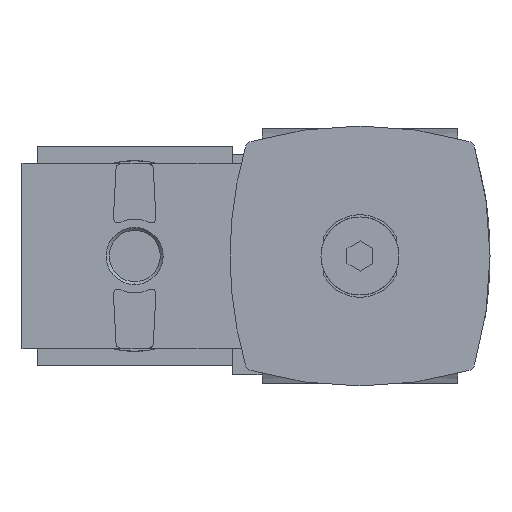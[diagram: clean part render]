
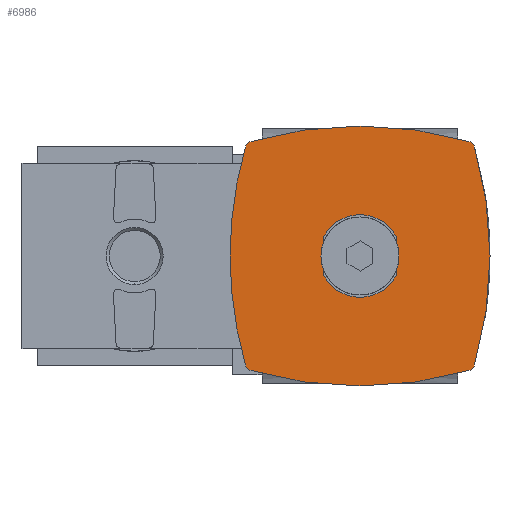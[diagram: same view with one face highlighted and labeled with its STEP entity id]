
A CAD part, front view. The second image highlights one B-rep face of the part: STEP entity #6986.
In plain terms, the highlighted planar face has unit normal (0, -1, 0) as drawn and (0, 0, 1) by its records, which use the part's own axes.
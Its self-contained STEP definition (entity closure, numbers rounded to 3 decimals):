
#6311=CARTESIAN_POINT('',(24.516,24.516,463.));
#6312=DIRECTION('',(0.,0.,1.));
#6313=DIRECTION('',(0.96,0.279,0.));
#6314=AXIS2_PLACEMENT_3D('',#6311,#6312,#6313);
#6316=CARTESIAN_POINT('',(24.516,-24.516,463.));
#6317=DIRECTION('',(0.,0.,1.));
#6318=DIRECTION('',(0.279,-0.96,0.));
#6319=AXIS2_PLACEMENT_3D('',#6316,#6317,#6318);
#6321=CARTESIAN_POINT('',(0.,60.,463.));
#6322=DIRECTION('',(0.,0.,1.));
#6323=DIRECTION('',(-0.279,-0.96,0.));
#6324=AXIS2_PLACEMENT_3D('',#6321,#6322,#6323);
#6326=CARTESIAN_POINT('',(-24.516,-24.516,463.));
#6327=DIRECTION('',(0.,0.,1.));
#6328=DIRECTION('',(-0.96,-0.279,0.));
#6329=AXIS2_PLACEMENT_3D('',#6326,#6327,#6328);
#6331=CARTESIAN_POINT('',(60.,0.,463.));
#6332=DIRECTION('',(0.,0.,1.));
#6333=DIRECTION('',(-1.,0.,0.));
#6334=AXIS2_PLACEMENT_3D('',#6331,#6332,#6333);
#6336=CARTESIAN_POINT('',(60.,0.,463.));
#6337=DIRECTION('',(0.,0.,1.));
#6338=DIRECTION('',(-0.96,0.279,0.));
#6339=AXIS2_PLACEMENT_3D('',#6336,#6337,#6338);
#6341=CARTESIAN_POINT('',(-24.516,24.516,463.));
#6342=DIRECTION('',(0.,0.,1.));
#6343=DIRECTION('',(-0.279,0.96,0.));
#6344=AXIS2_PLACEMENT_3D('',#6341,#6342,#6343);
#6346=CARTESIAN_POINT('',(0.,-60.,463.));
#6347=DIRECTION('',(0.,0.,1.));
#6348=DIRECTION('',(0.279,0.96,0.));
#6349=AXIS2_PLACEMENT_3D('',#6346,#6347,#6348);
#6351=DIRECTION('',(0.,1.,0.));
#6352=VECTOR('',#6351,8.485);
#6353=CARTESIAN_POINT('',(-8.5,-4.243,463.));
#6354=LINE('',#6353,#6352);
#6355=CARTESIAN_POINT('',(0.,0.,463.));
#6356=DIRECTION('',(0.,0.,1.));
#6357=DIRECTION('',(-0.895,-0.447,0.));
#6358=AXIS2_PLACEMENT_3D('',#6355,#6356,#6357);
#6360=DIRECTION('',(0.,-1.,0.));
#6361=VECTOR('',#6360,8.485);
#6362=CARTESIAN_POINT('',(8.5,4.243,463.));
#6363=LINE('',#6362,#6361);
#6364=CARTESIAN_POINT('',(0.,0.,463.));
#6365=DIRECTION('',(0.,0.,1.));
#6366=DIRECTION('',(0.895,0.447,0.));
#6367=AXIS2_PLACEMENT_3D('',#6364,#6365,#6366);
#6547=CARTESIAN_POINT('',(-60.,0.,463.));
#6548=DIRECTION('',(0.,0.,1.));
#6549=DIRECTION('',(0.96,-0.279,0.));
#6550=AXIS2_PLACEMENT_3D('',#6547,#6548,#6549);
#6851=CARTESIAN_POINT('',(8.5,4.243,463.));
#6852=VERTEX_POINT('',#6851);
#6853=CARTESIAN_POINT('',(-8.5,4.243,463.));
#6854=VERTEX_POINT('',#6853);
#6857=CARTESIAN_POINT('',(8.5,-4.243,463.));
#6858=VERTEX_POINT('',#6857);
#6859=CARTESIAN_POINT('',(-8.5,-4.243,463.));
#6860=VERTEX_POINT('',#6859);
#6861=CARTESIAN_POINT('',(26.437,25.073,463.));
#6862=CARTESIAN_POINT('',(25.073,26.437,463.));
#6863=VERTEX_POINT('',#6861);
#6864=VERTEX_POINT('',#6862);
#6865=CARTESIAN_POINT('',(-25.073,26.437,463.));
#6866=VERTEX_POINT('',#6865);
#6867=CARTESIAN_POINT('',(-26.437,25.073,463.));
#6868=VERTEX_POINT('',#6867);
#6869=CARTESIAN_POINT('',(-30.,0.,463.));
#6870=VERTEX_POINT('',#6869);
#6871=CARTESIAN_POINT('',(-26.437,-25.073,463.));
#6872=VERTEX_POINT('',#6871);
#6873=CARTESIAN_POINT('',(-25.073,-26.437,463.));
#6874=VERTEX_POINT('',#6873);
#6875=CARTESIAN_POINT('',(25.073,-26.437,463.));
#6876=VERTEX_POINT('',#6875);
#6877=CARTESIAN_POINT('',(26.437,-25.073,463.));
#6878=VERTEX_POINT('',#6877);
#6952=CARTESIAN_POINT('',(0.,0.,463.));
#6953=DIRECTION('',(0.,0.,1.));
#6954=DIRECTION('',(1.,0.,0.));
#6955=AXIS2_PLACEMENT_3D('',#6952,#6953,#6954);
#6956=PLANE('',#6955);
#6957=ORIENTED_EDGE('',*,*,#6942,.F.);
#6959=ORIENTED_EDGE('',*,*,#6958,.F.);
#6961=ORIENTED_EDGE('',*,*,#6960,.F.);
#6963=ORIENTED_EDGE('',*,*,#6962,.F.);
#6965=ORIENTED_EDGE('',*,*,#6964,.F.);
#6967=ORIENTED_EDGE('',*,*,#6966,.F.);
#6969=ORIENTED_EDGE('',*,*,#6968,.F.);
#6971=ORIENTED_EDGE('',*,*,#6970,.F.);
#6973=ORIENTED_EDGE('',*,*,#6972,.F.);
#6974=EDGE_LOOP('',(#6957,#6959,#6961,#6963,#6965,#6967,#6969,#6971,#6973));
#6975=FACE_OUTER_BOUND('',#6974,.F.);
#6977=ORIENTED_EDGE('',*,*,#6976,.F.);
#6979=ORIENTED_EDGE('',*,*,#6978,.T.);
#6981=ORIENTED_EDGE('',*,*,#6980,.F.);
#6983=ORIENTED_EDGE('',*,*,#6982,.T.);
#6984=EDGE_LOOP('',(#6977,#6979,#6981,#6983));
#6985=FACE_BOUND('',#6984,.F.);
#6986=ADVANCED_FACE('',(#6975,#6985),#6956,.T.);
#6315=CIRCLE('',#6314,2.);
#6320=CIRCLE('',#6319,2.);
#6325=CIRCLE('',#6324,90.);
#6330=CIRCLE('',#6329,2.);
#6335=CIRCLE('',#6334,90.);
#6340=CIRCLE('',#6339,90.);
#6345=CIRCLE('',#6344,2.);
#6350=CIRCLE('',#6349,90.);
#6359=CIRCLE('',#6358,9.5);
#6368=CIRCLE('',#6367,9.5);
#6551=CIRCLE('',#6550,90.);
#6942=EDGE_CURVE('',#6863,#6864,#6315,.T.);
#6958=EDGE_CURVE('',#6878,#6863,#6551,.T.);
#6960=EDGE_CURVE('',#6876,#6878,#6320,.T.);
#6962=EDGE_CURVE('',#6874,#6876,#6325,.T.);
#6964=EDGE_CURVE('',#6872,#6874,#6330,.T.);
#6966=EDGE_CURVE('',#6870,#6872,#6335,.T.);
#6968=EDGE_CURVE('',#6868,#6870,#6340,.T.);
#6970=EDGE_CURVE('',#6866,#6868,#6345,.T.);
#6972=EDGE_CURVE('',#6864,#6866,#6350,.T.);
#6976=EDGE_CURVE('',#6860,#6854,#6354,.T.);
#6978=EDGE_CURVE('',#6860,#6858,#6359,.T.);
#6980=EDGE_CURVE('',#6852,#6858,#6363,.T.);
#6982=EDGE_CURVE('',#6852,#6854,#6368,.T.);
